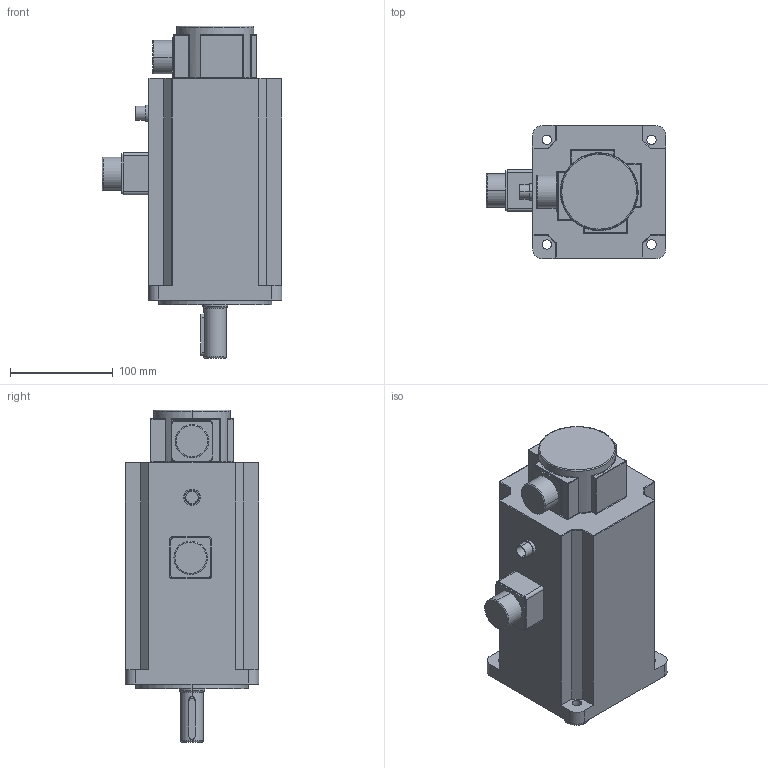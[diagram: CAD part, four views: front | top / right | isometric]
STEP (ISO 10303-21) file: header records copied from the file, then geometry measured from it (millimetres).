
FILE_DESCRIPTION (( 'STEP AP203' ), '1' );
FILE_NAME ('ACH13260CCT6NFrenli.STEP', '2013-03-06T12:09:38', ( '' ), ( '' ), 'SwSTEP 2.0', 'SolidWorks 2012', '' );
FILE_SCHEMA (( 'CONFIG_CONTROL_DESIGN' ));
Length unit declared in the file: millimetre
Products named in the file (1): ACH13260CCT6NFrenli
Bounding box: 175.2 x 130 x 323.5 mm (x, y, z)
Volume: 3644167.3 mm3; surface area: 179399.2 mm2
Topology: 2 solids, 2 shells, 288 faces, 681 edges, 396 vertices
Faces by surface type: cylinder 137, plane 88, torus 31, sphere 23, bspline 9
Entity records: 8573 total; most frequent: CARTESIAN_POINT 1849, DIRECTION 1500, ORIENTED_EDGE 1322, EDGE_CURVE 661, AXIS2_PLACEMENT_3D 591, VERTEX_POINT 396, VECTOR 318, LINE 318
